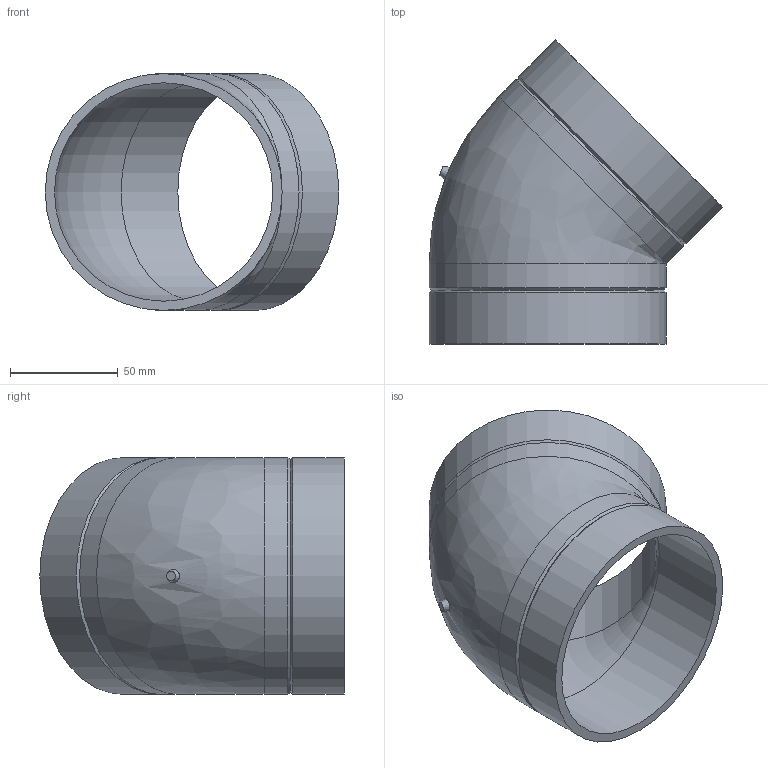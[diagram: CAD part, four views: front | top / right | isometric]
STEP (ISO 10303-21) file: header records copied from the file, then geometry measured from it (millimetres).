
FILE_DESCRIPTION(/* description */ (''),/* implementation_level */ '2;1');
FILE_NAME(/* name */ 'Z:\Geberit\Export\NewStep\PE Bogen Einzelteil_Ipart\stp\367045.stp',/* time_stamp */ '2014-04-02T11:56:55+02:00',/* author */ ('bruh'),/* organization */ (''),/* preprocessor_version */ 'ST-DEVELOPER v15.2',/* originating_system */ 'Autodesk Inventor 2014',/* authorisation */ '');
FILE_SCHEMA (('AUTOMOTIVE_DESIGN { 1 0 10303 214 3 1 1 }'));
Length unit declared in the file: millimetre
Products named in the file (1): 367045
Bounding box: 136.32 x 141.32 x 110 mm (x, y, z)
Volume: 167921 mm3; surface area: 81665.9 mm2
Topology: 1 solids, 1 shells, 16 faces, 32 edges, 17 vertices
Faces by surface type: cylinder 6, cone 5, plane 3, torus 1, bspline 1
Full cylindrical faces by diameter (mm): 101.4 x2, 110 x4
Entity records: 475 total; most frequent: CARTESIAN_POINT 169, DIRECTION 62, ORIENTED_EDGE 32, EDGE_LOOP 31, AXIS2_PLACEMENT_3D 31, FACE_BOUND 18, STYLED_ITEM 17, EDGE_CURVE 16
